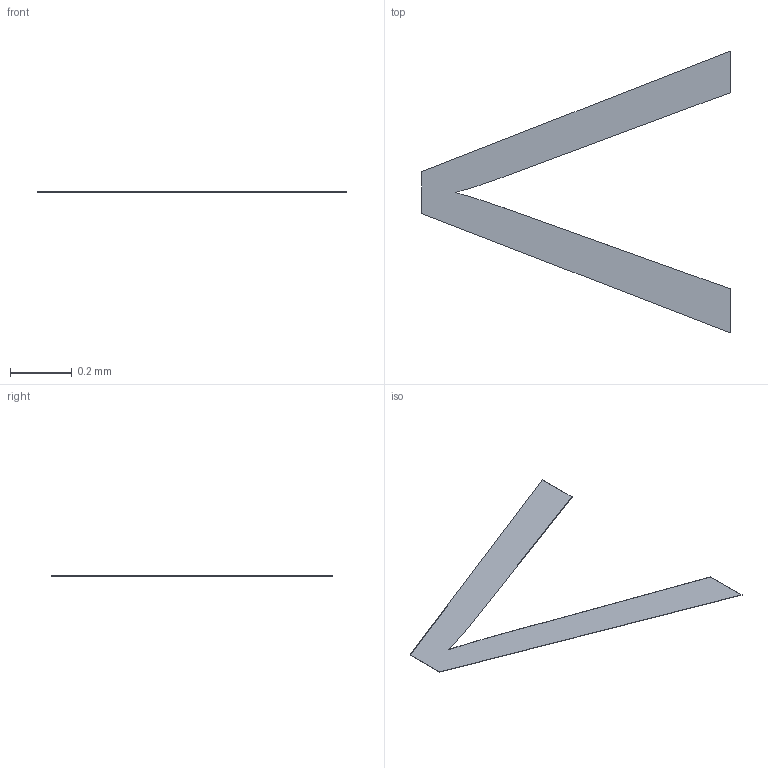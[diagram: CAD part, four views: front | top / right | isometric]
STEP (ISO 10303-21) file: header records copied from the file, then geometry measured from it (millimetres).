
FILE_DESCRIPTION(/* description */ ('STEP AP242 Edition 2','CAx-IF Rec.Pracs.---Representation and Presentation of Product Manufacturing Information (PMI)---4.0---2014-10-13','CAx-IF Rec.Pracs.---3D Tessellated Geometry---0.4---2014-09-14','2;1','CAx-IF Rec.Pracs.---User Defined Attributes---1.5---2016-08-15'),/* implementation_level */ '2;1');
FILE_NAME(/* name */ 'Drone Layout - Surface 369',/* time_stamp */ '2026-10-04T22:22:58Z',/* author */ (''),/* organization */ (''),/* preprocessor_version */ 'ST-DEVELOPER v20',/* originating_system */ 'ONSHAPE BY PTC INC, 1.221',/* authorisation */ ' ');
FILE_SCHEMA (('AP242_MANAGED_MODEL_BASED_3D_ENGINEERING_MIM_LF { 1 0 10303 442 3 1 4 }'));
Length unit declared in the file: metre
Products named in the file (1): VL53L0X:1__Body43
Bounding box: 1 x 0.91 x 0 mm (x, y, z)
Volume: 0 mm3; surface area: 0.5 mm2
Topology: 1 solids, 1 shells, 11 faces, 27 edges, 18 vertices
Faces by surface type: plane 9, cylinder 2
Entity records: 338 total; most frequent: CARTESIAN_POINT 57, DIRECTION 55, ORIENTED_EDGE 54, EDGE_CURVE 27, LINE 23, VECTOR 23, VERTEX_POINT 18, AXIS2_PLACEMENT_3D 16
